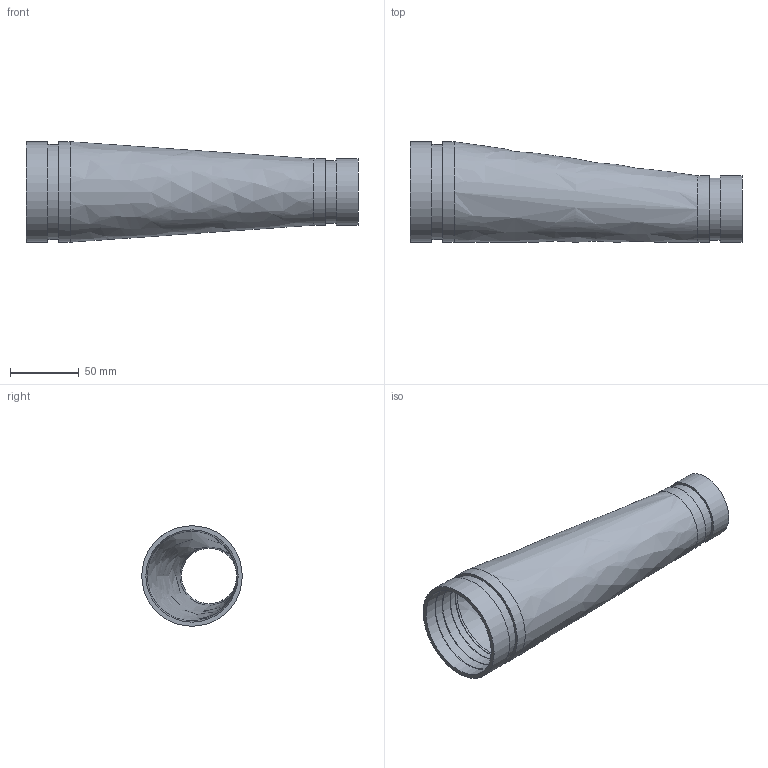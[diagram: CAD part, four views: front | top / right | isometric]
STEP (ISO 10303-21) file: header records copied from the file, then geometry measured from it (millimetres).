
FILE_DESCRIPTION(/* description */ ('VIC REDUCER ECCENTRIC No 451H-SS','CAx-IF Rec.Pracs.---Representation and Presentation of Product Manufacturing Information (PMI)---4.0---2014-10-13'),/* implementation_level */ '2;1');
FILE_NAME(/* name */ 'C:\Users\kkamble\AppData\Roaming\Autodesk\ApplicationPlugins\Back Up\Victaulic_SS-OGS_Reducer Eccentric_Sched 40S_No 451H SS (OGS)\Victaulic_SS-OGS_Reducer Eccentric_Sched 40S_No 451H SS (OGS)_02.5x01.5 (65x40).stp',/* time_stamp */ '2020-08-25T18:05:29+06:00',/* author */ ('CORINNE GRAY'),/* organization */ ('Victaulic'),/* preprocessor_version */ 'ST-DEVELOPER v17.2',/* originating_system */ 'Autodesk Inventor 2019',/* authorisation */ '');
FILE_SCHEMA (('AP242_MANAGED_MODEL_BASED_3D_ENGINEERING_MIM_LF { 1 0 10303 442 1 1 4 }'));
Length unit declared in the file: inch
Products named in the file (1): 451H SS-02.5x01.5
Bounding box: 241.3 x 73.03 x 73.03 mm (x, y, z)
Volume: 126861.9 mm3; surface area: 89876.7 mm2
Topology: 1 solids, 1 shells, 32 faces, 111 edges, 85 vertices
Faces by surface type: cylinder 12, torus 8, plane 6, cone 4, bspline 2
Full cylindrical faces by diameter (mm): 40.259 x1, 42.672 x2, 45.085 x1, 48.26 x2, 65.024 x1, 67.056 x2, 69.088 x1, 73.025 x2
Entity records: 1504 total; most frequent: DIRECTION 290, CARTESIAN_POINT 282, ORIENTED_EDGE 222, AXIS2_PLACEMENT_3D 137, EDGE_CURVE 111, CIRCLE 93, VERTEX_POINT 85, EDGE_LOOP 38
